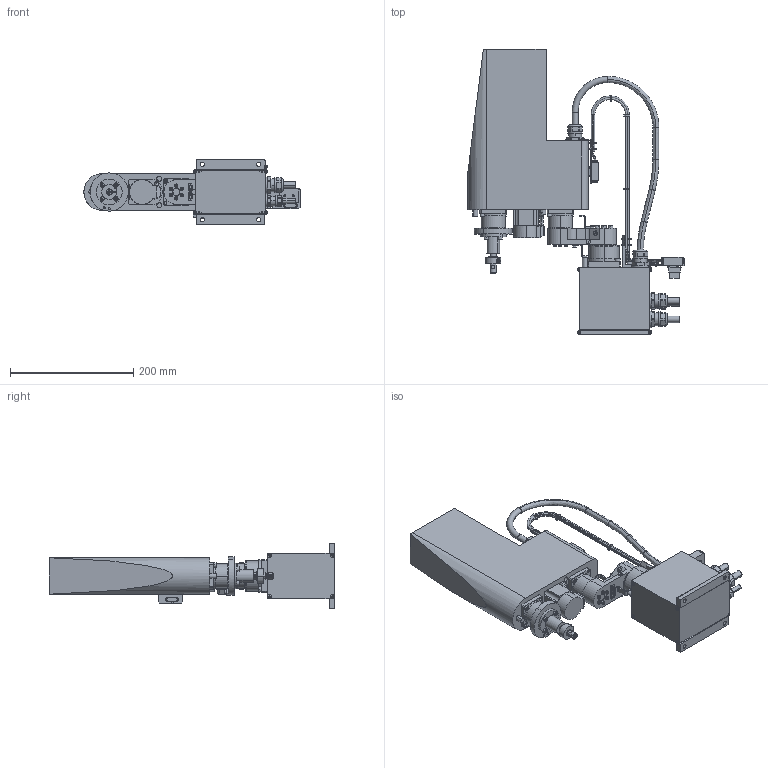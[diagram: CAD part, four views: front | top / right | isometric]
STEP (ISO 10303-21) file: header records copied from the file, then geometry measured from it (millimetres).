
FILE_DESCRIPTION (( 'STEP AP203' ), '1' );
FILE_NAME ('YK180X.STEP', '2005-06-22T10:13:23', ( 'IMロボット技術Gr' ), ( 'ヤマハ発動機' ), 'SwSTEP 2.0', 'SolidWorks 2004334', '' );
FILE_SCHEMA (( 'CONFIG_CONTROL_DESIGN' ));
Products named in the file (9): KBE-M1100; KBE-M2500_YK180X; KBE-M2500; KBE-M1100_YK180X; YK180X; KBE-M1840_YK180X; KBE-M1840; KBE-M1500_YK180X; KBE-M1500
Assembly tree (8 placements, depth 3):
  YK180X
    KBE-M1500_YK180X
      KBE-M1500
    KBE-M1840_YK180X
      KBE-M1840
    KBE-M2500_YK180X
      KBE-M2500
    KBE-M1100_YK180X
      KBE-M1100
Bounding box: 351 x 463.5 x 105 mm (x, y, z)
Volume: 3716281.4 mm3; surface area: 360489.4 mm2
Topology: 12 solids, 59 shells, 3024 faces, 7539 edges, 4715 vertices
Faces by surface type: plane 1668, cylinder 855, torus 246, cone 219, sphere 26, bspline 10
Entity records: 91487 total; most frequent: DIRECTION 16514, CARTESIAN_POINT 16345, ORIENTED_EDGE 14858, EDGE_CURVE 7429, AXIS2_PLACEMENT_3D 6168, VERTEX_POINT 4715, VECTOR 4178, LINE 4178
